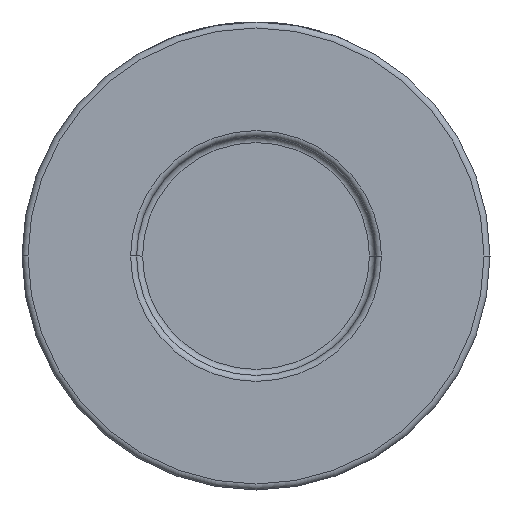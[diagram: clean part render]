
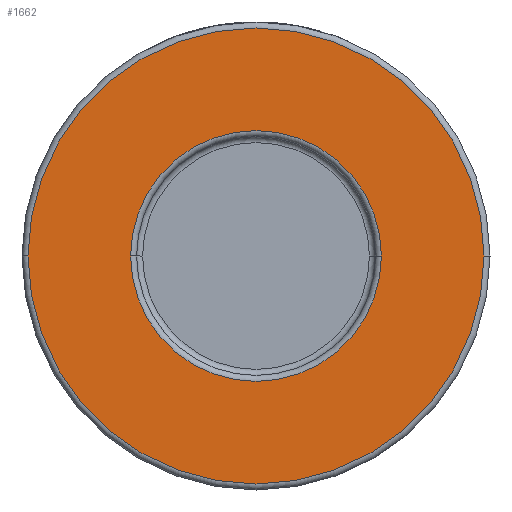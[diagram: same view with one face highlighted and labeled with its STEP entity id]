
A CAD part, front view. The second image highlights one B-rep face of the part: STEP entity #1662.
In plain terms, the highlighted planar face has unit normal (0, -1, 0).
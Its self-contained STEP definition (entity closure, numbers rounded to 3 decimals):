
#174 = DIRECTION ( 'NONE',  ( 1., 0., 0. ) ) ;
#252 = AXIS2_PLACEMENT_3D ( 'NONE', #2654, #965, #174 ) ;
#314 = FACE_OUTER_BOUND ( 'NONE', #2974, .T. ) ;
#499 = EDGE_CURVE ( 'NONE', #2601, #2640, #3129, .T. ) ;
#620 = EDGE_CURVE ( 'NONE', #3284, #3927, #3061, .T. ) ;
#637 = CARTESIAN_POINT ( 'NONE',  ( -20.9, -19., 0. ) ) ;
#638 = CIRCLE ( 'NONE', #3526, 38. ) ;
#683 = AXIS2_PLACEMENT_3D ( 'NONE', #3600, #2938, #2191 ) ;
#965 = DIRECTION ( 'NONE',  ( 0., -1., 0. ) ) ;
#999 = AXIS2_PLACEMENT_3D ( 'NONE', #2846, #1752, #4252 ) ;
#1326 = ORIENTED_EDGE ( 'NONE', *, *, #3764, .T. ) ;
#1481 = FACE_BOUND ( 'NONE', #4073, .T. ) ;
#1551 = CARTESIAN_POINT ( 'NONE',  ( 0., -19., 0. ) ) ;
#1662 = ADVANCED_FACE ( 'NONE', ( #1481, #314 ), #2096, .T. ) ;
#1752 = DIRECTION ( 'NONE',  ( 0., -1., 0. ) ) ;
#2096 = PLANE ( 'NONE',  #999 ) ;
#2148 = EDGE_CURVE ( 'NONE', #2640, #2601, #3237, .T. ) ;
#2191 = DIRECTION ( 'NONE',  ( 1., 0., 0. ) ) ;
#2198 = AXIS2_PLACEMENT_3D ( 'NONE', #2869, #4276, #3528 ) ;
#2601 = VERTEX_POINT ( 'NONE', #637 ) ;
#2622 = ORIENTED_EDGE ( 'NONE', *, *, #499, .T. ) ;
#2640 = VERTEX_POINT ( 'NONE', #3536 ) ;
#2654 = CARTESIAN_POINT ( 'NONE',  ( 0., -19., 0. ) ) ;
#2718 = ORIENTED_EDGE ( 'NONE', *, *, #620, .T. ) ;
#2846 = CARTESIAN_POINT ( 'NONE',  ( 39., -19., 0. ) ) ;
#2869 = CARTESIAN_POINT ( 'NONE',  ( 0., -19., 0. ) ) ;
#2938 = DIRECTION ( 'NONE',  ( 0., 1., 0. ) ) ;
#2974 = EDGE_LOOP ( 'NONE', ( #1326, #2718 ) ) ;
#3061 = CIRCLE ( 'NONE', #252, 38. ) ;
#3129 = CIRCLE ( 'NONE', #683, 20.9 ) ;
#3237 = CIRCLE ( 'NONE', #2198, 20.9 ) ;
#3284 = VERTEX_POINT ( 'NONE', #4508 ) ;
#3361 = ORIENTED_EDGE ( 'NONE', *, *, #2148, .T. ) ;
#3450 = CARTESIAN_POINT ( 'NONE',  ( 38., -19., 0. ) ) ;
#3526 = AXIS2_PLACEMENT_3D ( 'NONE', #1551, #3954, #3604 ) ;
#3528 = DIRECTION ( 'NONE',  ( 1., 0., 0. ) ) ;
#3536 = CARTESIAN_POINT ( 'NONE',  ( 20.9, -19., 0. ) ) ;
#3600 = CARTESIAN_POINT ( 'NONE',  ( 0., -19., 0. ) ) ;
#3604 = DIRECTION ( 'NONE',  ( 1., 0., 0. ) ) ;
#3764 = EDGE_CURVE ( 'NONE', #3927, #3284, #638, .T. ) ;
#3927 = VERTEX_POINT ( 'NONE', #3450 ) ;
#3954 = DIRECTION ( 'NONE',  ( 0., -1., 0. ) ) ;
#4073 = EDGE_LOOP ( 'NONE', ( #3361, #2622 ) ) ;
#4252 = DIRECTION ( 'NONE',  ( 1., 0., 0. ) ) ;
#4276 = DIRECTION ( 'NONE',  ( 0., 1., 0. ) ) ;
#4508 = CARTESIAN_POINT ( 'NONE',  ( -38., -19., 0. ) ) ;
